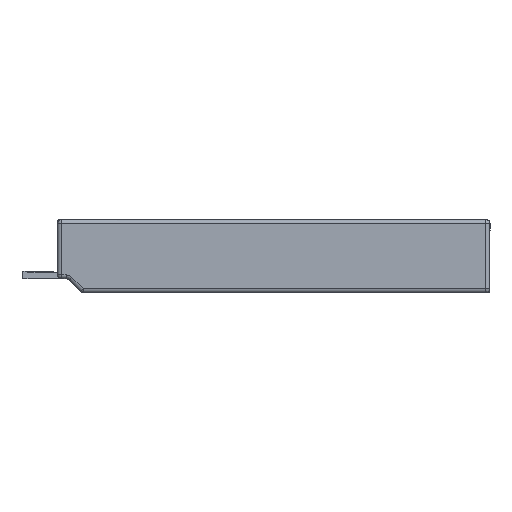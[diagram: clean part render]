
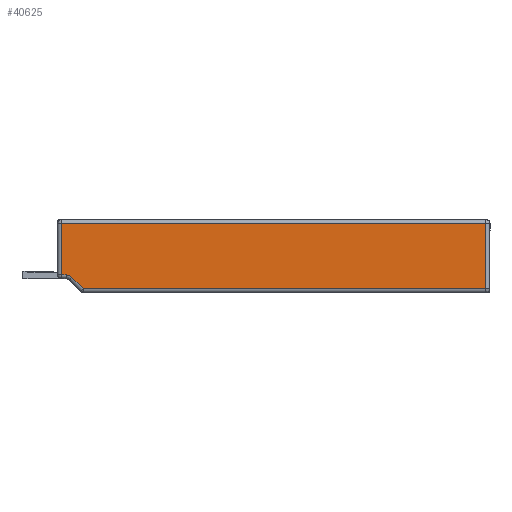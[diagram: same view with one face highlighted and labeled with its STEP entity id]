
A CAD part, left-side view. The second image highlights one B-rep face of the part: STEP entity #40625.
In plain terms, the highlighted planar face has unit normal (-1, 0, 0).
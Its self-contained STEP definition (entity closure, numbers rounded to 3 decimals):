
#1558 = FACE_OUTER_BOUND ( 'NONE', #13024, .T. ) ;
#1559 = PLANE ( 'NONE',  #2040 ) ;
#1572 = CARTESIAN_POINT ( 'NONE',  ( -83.85, 45.4, -5.5 ) ) ;
#1573 = DIRECTION ( 'NONE',  ( -1., 0., 0. ) ) ;
#1574 = DIRECTION ( 'NONE',  ( 0., -1., 0. ) ) ;
#2040 = AXIS2_PLACEMENT_3D ( 'NONE', #1572, #1573, #1574 ) ;
#4223 = ORIENTED_EDGE ( 'NONE', *, *, #39814, .T. ) ;
#4224 = ORIENTED_EDGE ( 'NONE', *, *, #39811, .T. ) ;
#4225 = ORIENTED_EDGE ( 'NONE', *, *, #39806, .T. ) ;
#4226 = ORIENTED_EDGE ( 'NONE', *, *, #39803, .T. ) ;
#4227 = ORIENTED_EDGE ( 'NONE', *, *, #39800, .T. ) ;
#4228 = ORIENTED_EDGE ( 'NONE', *, *, #39795, .T. ) ;
#4229 = ORIENTED_EDGE ( 'NONE', *, *, #39792, .T. ) ;
#13024 = EDGE_LOOP ( 'NONE', ( #4223, #4224, #4225, #4226, #4227, #4228, #4229 ) ) ;
#19691 = LINE ( 'NONE', #19735, #51167 ) ;
#19707 = LINE ( 'NONE', #19712, #51171 ) ;
#19712 = CARTESIAN_POINT ( 'NONE',  ( -83.85, 43.143, -0.991 ) ) ;
#19726 = LINE ( 'NONE', #19744, #51170 ) ;
#19729 = LINE ( 'NONE', #19764, #51172 ) ;
#19732 = DIRECTION ( 'NONE',  ( 0., -1., 0. ) ) ;
#19735 = CARTESIAN_POINT ( 'NONE',  ( -83.85, 44.391, -5.5 ) ) ;
#19741 = DIRECTION ( 'NONE',  ( 0., 0., -1. ) ) ;
#19744 = CARTESIAN_POINT ( 'NONE',  ( -83.85, 45.4, 12.091 ) ) ;
#19750 = DIRECTION ( 'NONE',  ( 0., 1., 0. ) ) ;
#19753 = LINE ( 'NONE', #19758, #51173 ) ;
#19758 = CARTESIAN_POINT ( 'NONE',  ( -83.85, -63.591, -5.5 ) ) ;
#19761 = DIRECTION ( 'NONE',  ( 0., 0., 1. ) ) ;
#19764 = CARTESIAN_POINT ( 'NONE',  ( -83.85, 45.4, -4.491 ) ) ;
#19769 = DIRECTION ( 'NONE',  ( 0., -1., 0. ) ) ;
#19772 = LINE ( 'NONE', #19778, #51175 ) ;
#19778 = CARTESIAN_POINT ( 'NONE',  ( -83.85, 39.512, -3.79 ) ) ;
#19780 = DIRECTION ( 'NONE',  ( 0., -0.707, -0.707 ) ) ;
#19793 = CARTESIAN_POINT ( 'NONE',  ( -83.85, 43.143, -3. ) ) ;
#19796 = DIRECTION ( 'NONE',  ( 1., 0., 0. ) ) ;
#19799 = DIRECTION ( 'NONE',  ( 0., -1., 0. ) ) ;
#22213 = VERTEX_POINT ( 'NONE', #42363 ) ;
#22223 = VERTEX_POINT ( 'NONE', #42373 ) ;
#22225 = VERTEX_POINT ( 'NONE', #42375 ) ;
#22226 = VERTEX_POINT ( 'NONE', #42377 ) ;
#22228 = VERTEX_POINT ( 'NONE', #42378 ) ;
#22233 = VERTEX_POINT ( 'NONE', #42384 ) ;
#22239 = VERTEX_POINT ( 'NONE', #42387 ) ;
#39792 = EDGE_CURVE ( 'NONE', #22213, #22233, #19707, .T. ) ;
#39795 = EDGE_CURVE ( 'NONE', #22228, #22213, #19691, .T. ) ;
#39800 = EDGE_CURVE ( 'NONE', #22226, #22228, #19726, .T. ) ;
#39803 = EDGE_CURVE ( 'NONE', #22225, #22226, #19753, .T. ) ;
#39806 = EDGE_CURVE ( 'NONE', #22223, #22225, #19729, .T. ) ;
#39811 = EDGE_CURVE ( 'NONE', #22239, #22223, #19772, .T. ) ;
#39814 = EDGE_CURVE ( 'NONE', #22233, #22239, #51174, .T. ) ;
#40625 = ADVANCED_FACE ( 'NONE', ( #1558 ), #1559, .T. ) ;
#42363 = CARTESIAN_POINT ( 'NONE',  ( -83.85, 44.391, -0.991 ) ) ;
#42373 = CARTESIAN_POINT ( 'NONE',  ( -83.85, 38.811, -4.491 ) ) ;
#42375 = CARTESIAN_POINT ( 'NONE',  ( -83.85, -63.591, -4.491 ) ) ;
#42377 = CARTESIAN_POINT ( 'NONE',  ( -83.85, -63.591, 12.091 ) ) ;
#42378 = CARTESIAN_POINT ( 'NONE',  ( -83.85, 44.391, 12.091 ) ) ;
#42384 = CARTESIAN_POINT ( 'NONE',  ( -83.85, 43.143, -0.991 ) ) ;
#42387 = CARTESIAN_POINT ( 'NONE',  ( -83.85, 41.722, -1.58 ) ) ;
#51167 = VECTOR ( 'NONE', #19741, 1000. ) ;
#51170 = VECTOR ( 'NONE', #19750, 1000. ) ;
#51171 = VECTOR ( 'NONE', #19732, 1000. ) ;
#51172 = VECTOR ( 'NONE', #19769, 1000. ) ;
#51173 = VECTOR ( 'NONE', #19761, 1000. ) ;
#51174 = CIRCLE ( 'NONE', #51178, 2.009 ) ;
#51175 = VECTOR ( 'NONE', #19780, 1000. ) ;
#51178 = AXIS2_PLACEMENT_3D ( 'NONE', #19793, #19796, #19799 ) ;
